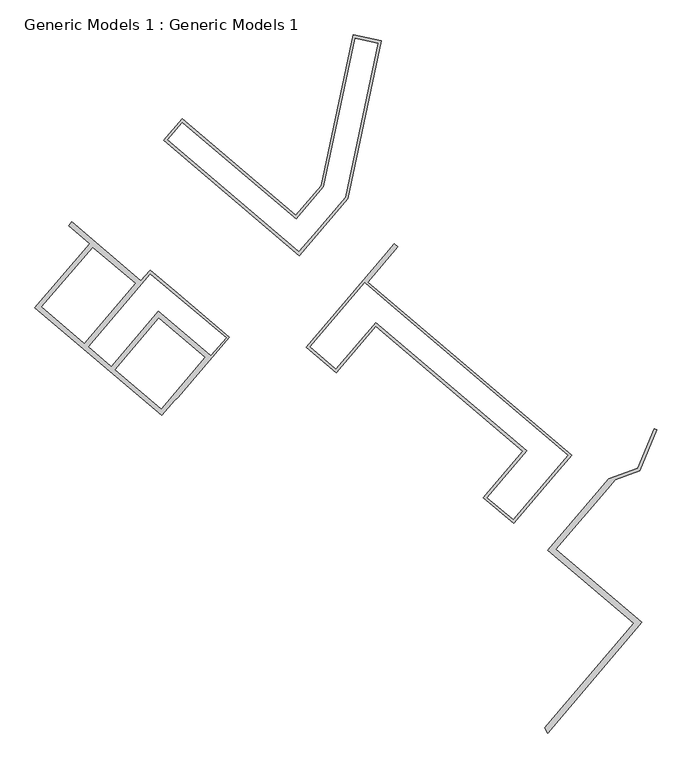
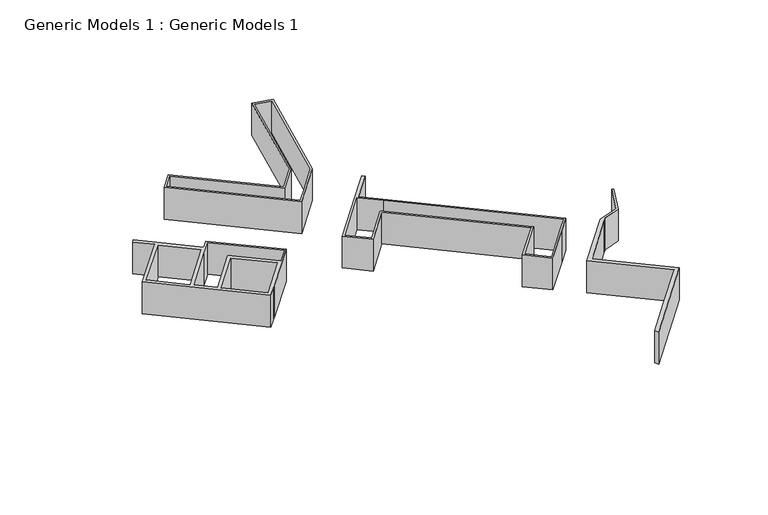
"""IFC4 building model written with IfcOpenShell, lengths in millimetres: proxy geometry, Generic Models 1 : Generic Models 1."""

from ifc_helpers import new_model, si_unit, origin, place, context, project, spatial, faceted_brep, source, transform, mapped, element, save


def generic_models_1_generic_models_1_e7313d62(model_context):
    return source(origin(), model_context, "Body", "Brep", [
        faceted_brep([(872147.618139, -10264.134009, 6546.4705882), (873788.5080338, -8332.4998237, 6546.4705882), (874275.9517922, -7910.175142, 6546.4705882), (881093.5424341, 116.7588135, 6546.4705882), (873843.8236649, 6274.2455332, 6546.4705882), (870601.0410149, 9028.4752816, 6546.4705882), (869387.6199012, 7599.8105744, 6546.4705882), (860191.5518987, 15410.3927361, 6546.4705882), (859789.4105463, 14936.9172452, 6546.4705882), (862620.4601686, 12515.1845143, 6546.4705882), (855315.4262739, 4032.1084162, 6546.4705882), (877849.2059736, -2567.3630359, 6546.4705882), (872074.5349879, -9365.7256964, 6546.4705882), (865996.036268, -4202.1459661, 6546.4705882), (871769.9551441, 2595.9837414, 6546.4705882), (870645.3760525, 8495.3143952, 6546.4705882), (880686.4283815, 55.8993104, 6546.4705882), (878679.2375703, -2307.3385139, 6546.4705882), (871685.4948651, 3632.7221731, 6546.4705882), (865435.4765791, -3725.9601872, 6546.4705882), (862432.2164452, -1174.7425483, 6546.4705882), (868436.7153623, 5894.8688098, 6546.4705882), (861854.6157417, -684.0807217, 6546.4705882), (856195.9377727, 4122.8685281, 6546.4705882), (863021.1802466, 12012.7390271, 6546.4705882), (868608.1854092, 7267.4758508, 6546.4705882), (872147.618139, -10264.134009, 0.0), (855315.4262739, 4032.1084162, 0.0), (862620.4601686, 12515.1845143, 0.0), (859789.4105463, 14936.9172452, 0.0), (860191.5518987, 15410.3927361, 0.0), (869387.6199012, 7599.8105744, 0.0), (870601.0410149, 9028.4752816, 0.0), (873843.8236649, 6274.2455332, 0.0), (881093.5424341, 116.7588135, 0.0), (874275.9517922, -7910.175142, 0.0), (873788.5080338, -8332.4998237, 0.0), (877849.2059736, -2567.3630359, 0.0), (871769.9551441, 2595.9837414, 0.0), (865996.036268, -4202.1459661, 0.0), (872074.5349879, -9365.7256964, 0.0), (870645.3760525, 8495.3143952, 0.0), (868436.7153623, 5894.8688098, 0.0), (862432.2164452, -1174.7425483, 0.0), (865435.4765791, -3725.9601872, 0.0), (871685.4948651, 3632.7221731, 0.0), (878679.2375703, -2307.3385139, 0.0), (880686.4283815, 55.8993104, 0.0), (861854.6157417, -684.0807217, 0.0), (868608.1854092, 7267.4758508, 0.0), (863021.1802466, 12012.7390271, 0.0), (856195.9377727, 4122.8685281, 0.0)], [[[0, 1, 2, 3, 4, 5, 6, 7, 8, 9, 10], [11, 12, 13, 14], [15, 16, 17, 18, 19, 20, 21], [22, 23, 24, 25]], [[26, 27, 28, 29, 30, 31, 32, 33, 34, 35, 36], [37, 38, 39, 40], [41, 42, 43, 44, 45, 46, 47], [48, 49, 50, 51]], [[3, 2, 35, 34]], [[4, 3, 34, 33]], [[5, 4, 33, 32]], [[6, 5, 32, 31]], [[7, 6, 31, 30]], [[8, 7, 30, 29]], [[9, 8, 29, 28]], [[10, 9, 28, 27]], [[0, 10, 27, 26]], [[1, 0, 26, 36]], [[12, 11, 37, 40]], [[13, 12, 40, 39]], [[14, 13, 39, 38]], [[11, 14, 38, 37]], [[16, 15, 41, 47]], [[17, 16, 47, 46]], [[18, 17, 46, 45]], [[19, 18, 45, 44]], [[20, 19, 44, 43]], [[21, 20, 43, 42]], [[15, 21, 42, 41]], [[23, 22, 48, 51]], [[24, 23, 51, 50]], [[25, 24, 50, 49]], [[22, 25, 49, 48]], [[2, 1, 36, 35]]]),
        faceted_brep([(935852.2008449, -37737.1609636, 6546.4705882), (924456.4793586, -28058.3266036, 6546.4705882), (931652.7463516, -19585.5445161, 6546.4705882), (932343.3806818, -18772.4014488, 6546.4705882), (935561.025549, -17615.8836153, 6546.4705882), (937862.9685182, -12148.6797664, 6546.4705882), (937512.1095758, -12015.3682703, 6546.4705882), (935301.7193376, -17276.6131721, 6546.4705882), (931440.8285787, -18664.3328243, 6546.4705882), (923388.2240786, -28145.3544751, 6546.4705882), (934783.9455649, -37824.1888351, 6546.4705882), (928293.8813018, -45465.497904, 6546.4705882), (922971.8161798, -51731.621448, 6546.4705882), (923375.8040341, -52426.6925663, 6546.4705882), (935852.2008449, -37737.1609636, 0.0), (923375.8040341, -52426.6925663, 0.0), (922971.8161798, -51731.621448, 0.0), (928293.8813018, -45465.497904, 0.0), (934783.9455649, -37824.1888351, 0.0), (923388.2240786, -28145.3544751, 0.0), (931440.8285787, -18664.3328243, 0.0), (935301.7193376, -17276.6131721, 0.0), (937512.1095758, -12015.3682703, 0.0), (937862.9685182, -12148.6797664, 0.0), (935561.025549, -17615.8836153, 0.0), (932343.3806818, -18772.4014488, 0.0), (931652.7463516, -19585.5445161, 0.0), (924456.4793586, -28058.3266036, 0.0)], [[[0, 1, 2, 3, 4, 5, 6, 7, 8, 9, 10, 11, 12, 13]], [[14, 15, 16, 17, 18, 19, 20, 21, 22, 23, 24, 25, 26, 27]], [[0, 13, 15, 14]], [[1, 0, 14, 27]], [[2, 1, 27, 26]], [[3, 2, 26, 25]], [[4, 3, 25, 24]], [[5, 4, 24, 23]], [[6, 5, 23, 22]], [[7, 6, 22, 21]], [[8, 7, 21, 20]], [[9, 8, 20, 19]], [[10, 9, 19, 18]], [[11, 10, 18, 17]], [[12, 11, 17, 16]], [[13, 12, 16, 15]]]),
        faceted_brep([(926542.8778463, -15527.4201765, 6546.4705882), (899502.4214542, 7438.6963701, 6546.4705882), (903462.9683034, 12101.7877247, 6546.4705882), (902981.6003236, 12510.6324782, 6546.4705882), (901582.9887513, 10863.9271672, 6546.4705882), (891313.0175667, -1227.7903826, 6546.4705882), (895312.0418544, -4624.6449899, 6546.4705882), (900567.4089981, 1562.3554202, 6546.4705882), (920089.9396605, -15018.8975349, 6546.4705882), (914834.8655442, -21206.1468246, 6546.4705882), (918833.8329872, -24602.9531469, 6546.4705882), (924089.417894, -18415.8116658, 6546.4705882), (895268.553215, -4090.5152897, 6546.4705882), (891846.7174763, -1183.93667, 6546.4705882), (899064.7267893, 7313.6288394, 6546.4705882), (902486.562528, 4407.0502197, 6546.4705882), (926008.561734, -15571.1282739, 6546.4705882), (924044.9830385, -17882.7959199, 6546.4705882), (918790.4012363, -24068.871769, 6546.4705882), (915368.96848, -21162.6354509, 6546.4705882), (920624.0605521, -14975.3711019, 6546.4705882), (900523.9203589, 2096.4851207, 6546.4705882), (926542.8778463, -15527.4201765, 0.0), (924089.417894, -18415.8116658, 0.0), (918833.8329872, -24602.9531469, 0.0), (914834.8655442, -21206.1468246, 0.0), (920089.9396605, -15018.8975349, 0.0), (900567.4089981, 1562.3554202, 0.0), (895312.0418544, -4624.6449899, 0.0), (891313.0175667, -1227.7903826, 0.0), (901582.9887513, 10863.9271672, 0.0), (902981.6003236, 12510.6324782, 0.0), (903462.9683034, 12101.7877247, 0.0), (899502.4214542, 7438.6963701, 0.0), (895268.553215, -4090.5152897, 0.0), (900523.9203589, 2096.4851207, 0.0), (920624.0605521, -14975.3711019, 0.0), (915368.96848, -21162.6354509, 0.0), (918790.4012363, -24068.871769, 0.0), (924044.9830385, -17882.7959199, 0.0), (926008.561734, -15571.1282739, 0.0), (902486.562528, 4407.0502197, 0.0), (899064.7267893, 7313.6288394, 0.0), (891846.7174763, -1183.93667, 0.0)], [[[0, 1, 2, 3, 4, 5, 6, 7, 8, 9, 10, 11], [12, 13, 14, 15, 16, 17, 18, 19, 20, 21]], [[22, 23, 24, 25, 26, 27, 28, 29, 30, 31, 32, 33], [34, 35, 36, 37, 38, 39, 40, 41, 42, 43]], [[1, 0, 22, 33]], [[5, 4, 30, 29]], [[6, 5, 29, 28]], [[7, 6, 28, 27]], [[8, 7, 27, 26]], [[9, 8, 26, 25]], [[10, 9, 25, 24]], [[11, 10, 24, 23]], [[0, 11, 23, 22]], [[13, 12, 34, 43]], [[14, 13, 43, 42]], [[15, 14, 42, 41]], [[16, 15, 41, 40]], [[17, 16, 40, 39]], [[18, 17, 39, 38]], [[19, 18, 38, 37]], [[20, 19, 37, 36]], [[21, 20, 36, 35]], [[12, 21, 35, 34]], [[2, 1, 33, 32]], [[3, 2, 32, 31]], [[4, 3, 31, 30]]]),
        faceted_brep([(872403.08905, 26242.430243, 6546.4705882), (890401.3618089, 10955.7894621, 6546.4705882), (896820.6102612, 18513.7210055, 6546.4705882), (901275.6445188, 39443.1539637, 6546.4705882), (897569.3145705, 40232.0824991, 6546.4705882), (893313.3674295, 20237.9466048, 6546.4705882), (889966.3003709, 16297.157603, 6546.4705882), (874856.2354905, 29130.7298627, 6546.4705882), (900826.1186705, 39151.4138224, 6546.4705882), (896469.885978, 18686.1435655, 6546.4705882), (892247.7539426, 13715.0655446, 6546.4705882), (890357.8476089, 11489.9173265, 6546.4705882), (872937.21669, 26285.9441787, 6546.4705882), (874899.7740044, 28596.5813475, 6546.4705882), (890009.8143066, 15763.029963, 6546.4705882), (893664.0917127, 20065.5240449, 6546.4705882), (897861.0547118, 39782.5566507, 6546.4705882), (872403.08905, 26242.430243, 0.0), (874856.2354905, 29130.7298627, 0.0), (889966.3003709, 16297.157603, 0.0), (893313.3674295, 20237.9466048, 0.0), (897569.3145705, 40232.0824991, 0.0), (901275.6445188, 39443.1539637, 0.0), (896820.6102612, 18513.7210055, 0.0), (890401.3618089, 10955.7894621, 0.0), (900826.1186705, 39151.4138224, 0.0), (897861.0547118, 39782.5566507, 0.0), (893664.0917127, 20065.5240449, 0.0), (890009.8143066, 15763.029963, 0.0), (874899.7740044, 28596.5813475, 0.0), (872937.21669, 26285.9441787, 0.0), (890357.8476089, 11489.9173265, 0.0), (892247.7300095, 13715.0858715, 0.0), (896469.885978, 18686.1435655, 0.0)], [[[0, 1, 2, 3, 4, 5, 6, 7], [8, 9, 10, 11, 12, 13, 14, 15, 16]], [[17, 18, 19, 20, 21, 22, 23, 24], [25, 26, 27, 28, 29, 30, 31, 32, 33]], [[1, 0, 17, 24]], [[2, 1, 24, 23]], [[3, 2, 23, 22]], [[4, 3, 22, 21]], [[5, 4, 21, 20]], [[6, 5, 20, 19]], [[7, 6, 19, 18]], [[0, 7, 18, 17]], [[9, 8, 25, 33]], [[10, 9, 33, 32]], [[11, 10, 32, 31]], [[12, 11, 31, 30]], [[13, 12, 30, 29]], [[14, 13, 29, 28]], [[15, 14, 28, 27]], [[16, 15, 27, 26]], [[8, 16, 26, 25]]]),
    ])


if __name__ == "__main__":
    model = new_model("IFC4")
    model_context = context("Model", 3, world=origin())
    ifc_project = project(units=[si_unit("LENGTHUNIT", "METRE", prefix="MILLI")], contexts=[model_context])
    site = spatial("IfcSite", under=ifc_project)
    building = spatial("IfcBuilding", under=site)
    placement = place(None, origin())
    generic_models_1_generic_models_1_shape = generic_models_1_generic_models_1_e7313d62(model_context)
    element("IfcBuildingElementProxy", 1, Name="Generic Models 1 : Generic Models 1", ObjectType="Generic Models 1 : Generic Models 1", at=placement, inside=building, context=model_context, shape_type="MappedRepresentation", body=[
        mapped(generic_models_1_generic_models_1_shape, transform((0.0, 0.0, 0.0), x_axis=(1.0, 0.0, 0.0), y_axis=(0.0, 1.0, 0.0), z_axis=(0.0, 0.0, 1.0))),
    ])
    save(model, "model.ifc")
